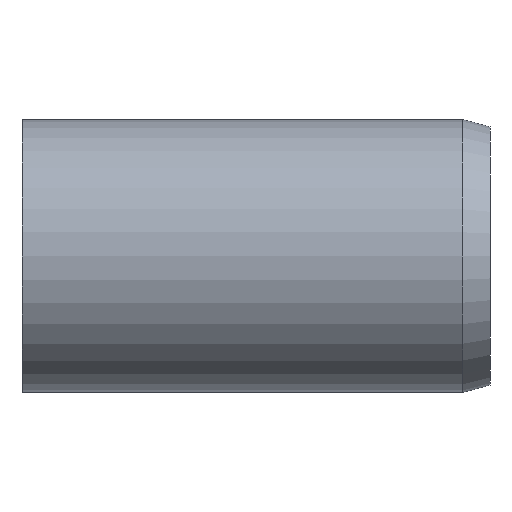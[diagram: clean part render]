
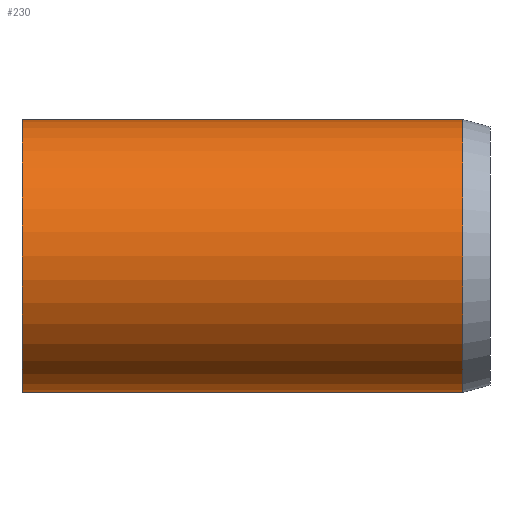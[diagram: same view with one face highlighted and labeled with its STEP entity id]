
A CAD part, left-side view. The second image highlights one B-rep face of the part: STEP entity #230.
In plain terms, the highlighted cylindrical face has radius 3.5 mm (diameter 7 mm), a partial arc.
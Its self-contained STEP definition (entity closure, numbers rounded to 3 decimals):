
#3 = VERTEX_POINT ( 'NONE', #377 ) ;
#12 = DIRECTION ( 'NONE',  ( 0., -1., 0. ) ) ;
#21 = EDGE_CURVE ( 'NONE', #47, #37, #427, .T. ) ;
#22 = CARTESIAN_POINT ( 'NONE',  ( 0., 0.7, -3.5 ) ) ;
#37 = VERTEX_POINT ( 'NONE', #22 ) ;
#47 = VERTEX_POINT ( 'NONE', #455 ) ;
#54 = FACE_OUTER_BOUND ( 'NONE', #395, .T. ) ;
#55 = VECTOR ( 'NONE', #382, 1000. ) ;
#58 = DIRECTION ( 'NONE',  ( 0., -1., 0. ) ) ;
#65 = CARTESIAN_POINT ( 'NONE',  ( 0., 0.7, 0. ) ) ;
#72 = EDGE_CURVE ( 'NONE', #338, #3, #443, .T. ) ;
#77 = AXIS2_PLACEMENT_3D ( 'NONE', #422, #320, #462 ) ;
#80 = ORIENTED_EDGE ( 'NONE', *, *, #21, .F. ) ;
#93 = CYLINDRICAL_SURFACE ( 'NONE', #77, 3.5 ) ;
#98 = DIRECTION ( 'NONE',  ( 0., 0., -1. ) ) ;
#106 = AXIS2_PLACEMENT_3D ( 'NONE', #65, #58, #98 ) ;
#123 = ORIENTED_EDGE ( 'NONE', *, *, #360, .F. ) ;
#135 = CARTESIAN_POINT ( 'NONE',  ( 0., 0., -3.5 ) ) ;
#165 = LINE ( 'NONE', #405, #237 ) ;
#180 = EDGE_CURVE ( 'NONE', #3, #37, #444, .T. ) ;
#192 = CARTESIAN_POINT ( 'NONE',  ( 0., 12., 0. ) ) ;
#230 = ADVANCED_FACE ( 'NONE', ( #54 ), #93, .T. ) ;
#232 = CARTESIAN_POINT ( 'NONE',  ( 0., 12., 3.5 ) ) ;
#237 = VECTOR ( 'NONE', #12, 1000. ) ;
#287 = DIRECTION ( 'NONE',  ( 0., -1., 0. ) ) ;
#291 = DIRECTION ( 'NONE',  ( 0., 0., -1. ) ) ;
#320 = DIRECTION ( 'NONE',  ( 0., -1., 0. ) ) ;
#328 = AXIS2_PLACEMENT_3D ( 'NONE', #192, #287, #291 ) ;
#330 = ORIENTED_EDGE ( 'NONE', *, *, #72, .T. ) ;
#338 = VERTEX_POINT ( 'NONE', #232 ) ;
#360 = EDGE_CURVE ( 'NONE', #338, #47, #165, .T. ) ;
#368 = ORIENTED_EDGE ( 'NONE', *, *, #180, .T. ) ;
#377 = CARTESIAN_POINT ( 'NONE',  ( 0., 12., -3.5 ) ) ;
#382 = DIRECTION ( 'NONE',  ( 0., -1., 0. ) ) ;
#395 = EDGE_LOOP ( 'NONE', ( #123, #330, #368, #80 ) ) ;
#405 = CARTESIAN_POINT ( 'NONE',  ( 0., 0., 3.5 ) ) ;
#422 = CARTESIAN_POINT ( 'NONE',  ( 0., 0., 0. ) ) ;
#427 = CIRCLE ( 'NONE', #106, 3.5 ) ;
#443 = CIRCLE ( 'NONE', #328, 3.5 ) ;
#444 = LINE ( 'NONE', #135, #55 ) ;
#455 = CARTESIAN_POINT ( 'NONE',  ( 0., 0.7, 3.5 ) ) ;
#462 = DIRECTION ( 'NONE',  ( 0., 0., -1. ) ) ;
